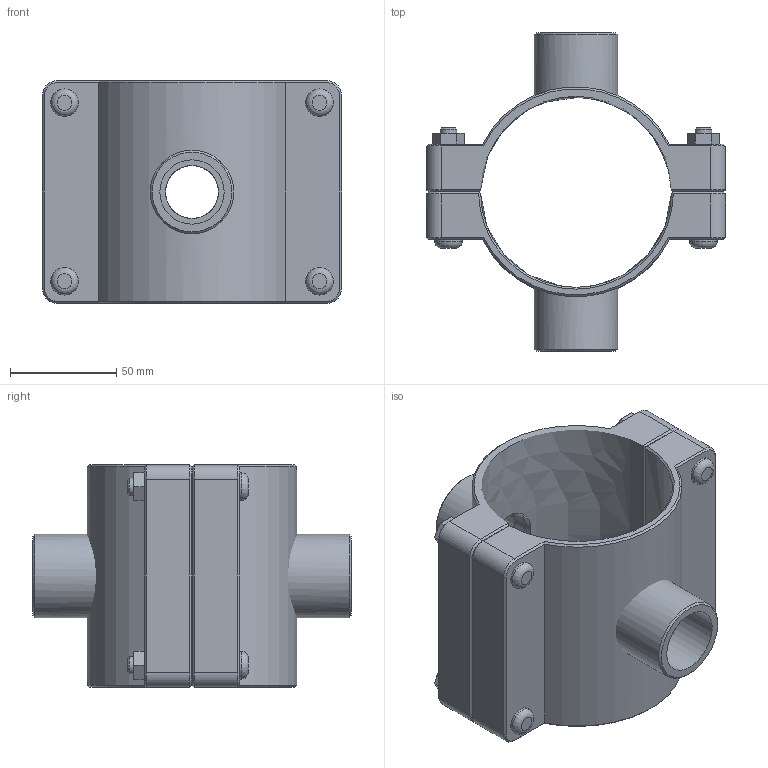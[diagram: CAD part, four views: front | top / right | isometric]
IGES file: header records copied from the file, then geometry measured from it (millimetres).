
Global section: file name: 161760090010_161860090010.ipt; native system: Autodesk Inventor 2015; preprocessor: unknown; author: KIM; date: 20170618.093727; units: millimetre
Bounding box: 141 x 150 x 105 mm (x, y, z)
Volume: 383572.8 mm3; surface area: 102578.7 mm2
Topology: 3 solids, 3 shells, 151 faces, 350 edges, 221 vertices
Faces by surface type: plane 84, cone 26, cylinder 24, revolution 17
Full cylindrical faces by diameter (mm): 8 x4, 13 x8, 39.378 x2
